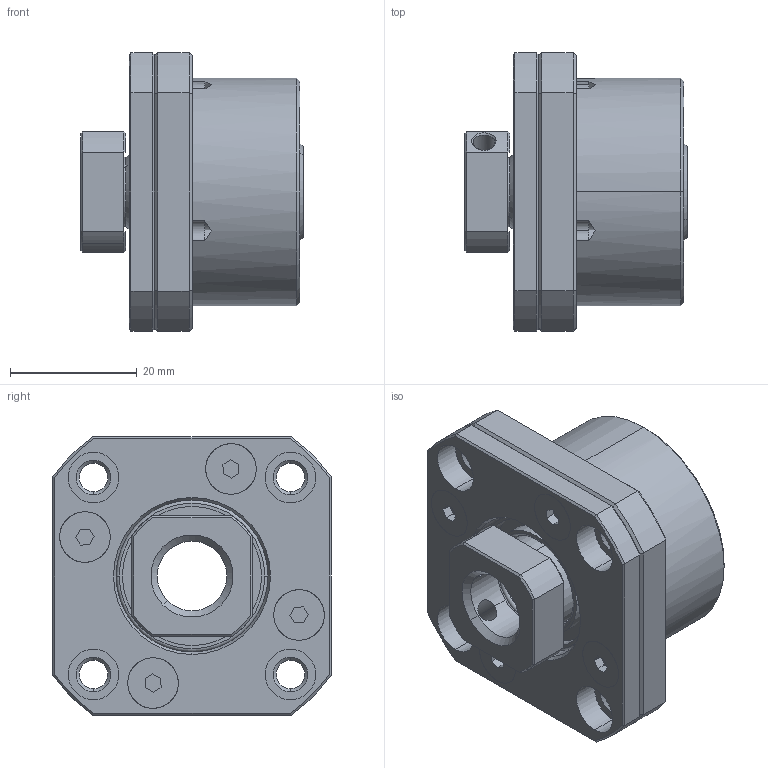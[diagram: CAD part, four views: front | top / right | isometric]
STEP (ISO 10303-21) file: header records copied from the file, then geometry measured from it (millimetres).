
FILE_DESCRIPTION (( 'STEP AP203' ), '1' );
FILE_NAME ('FK12²Õ¦XA.STEP', '2021-09-29T01:26:34', ( '' ), ( '' ), 'SwSTEP 2.0', 'SolidWorks 2018', '' );
FILE_SCHEMA (( 'CONFIG_CONTROL_DESIGN' ));
Length unit declared in the file: millimetre
Products named in the file (1): FK12組合A
Bounding box: 35.1 x 44 x 44 mm (x, y, z)
Surface area: 13713.5 mm2 (no closed solid volume)
Topology: 0 solids, 19 shells, 227 faces, 597 edges, 389 vertices
Faces by surface type: plane 84, cylinder 73, cone 48, torus 18, bspline 4
Entity records: 7618 total; most frequent: CARTESIAN_POINT 1848, DIRECTION 1260, ORIENTED_EDGE 1071, EDGE_CURVE 597, AXIS2_PLACEMENT_3D 513, VERTEX_POINT 389, CIRCLE 289, EDGE_LOOP 278
